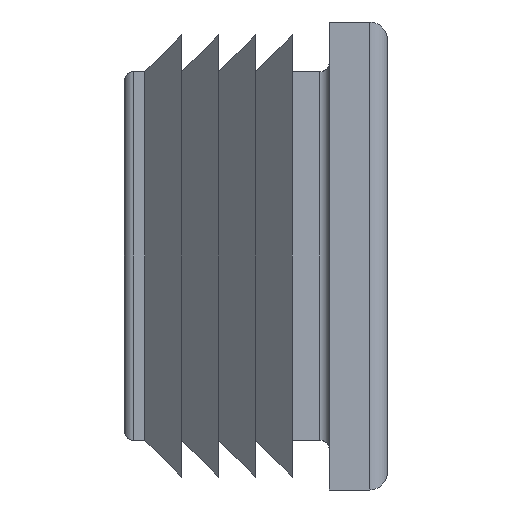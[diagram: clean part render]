
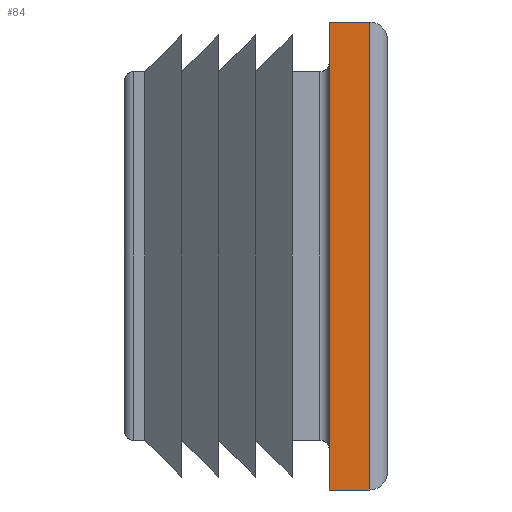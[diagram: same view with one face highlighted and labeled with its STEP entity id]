
A CAD part, front view. The second image highlights one B-rep face of the part: STEP entity #84.
In plain terms, the highlighted planar face has unit normal (0, -1, 0).
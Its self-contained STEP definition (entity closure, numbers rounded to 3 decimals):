
#84=ADVANCED_FACE('',(#168),#655,.T.);
#168=FACE_OUTER_BOUND('',#252,.F.);
#252=EDGE_LOOP('',(#443,#444,#445,#446));
#443=ORIENTED_EDGE('',*,*,#744,.F.);
#444=ORIENTED_EDGE('',*,*,#817,.F.);
#445=ORIENTED_EDGE('',*,*,#785,.T.);
#446=ORIENTED_EDGE('',*,*,#816,.T.);
#655=PLANE('',#1292);
#744=EDGE_CURVE('',#1226,#1225,#902,.T.);
#785=EDGE_CURVE('',#1206,#1205,#938,.T.);
#816=EDGE_CURVE('',#1205,#1225,#965,.T.);
#817=EDGE_CURVE('',#1206,#1226,#966,.T.);
#902=LINE('',#1830,#1046);
#938=LINE('',#1926,#1082);
#965=LINE('',#2001,#1109);
#966=LINE('',#2002,#1110);
#1046=VECTOR('',#1361,2.175);
#1082=VECTOR('',#1397,2.175);
#1109=VECTOR('',#1424,25.4);
#1110=VECTOR('',#1425,25.4);
#1205=VERTEX_POINT('',#1691);
#1206=VERTEX_POINT('',#1692);
#1225=VERTEX_POINT('',#1711);
#1226=VERTEX_POINT('',#1712);
#1292=AXIS2_PLACEMENT_3D('',#2160,#1560,#1561);
#1361=DIRECTION('',(1.,0.,0.));
#1397=DIRECTION('',(1.,0.,0.));
#1424=DIRECTION('',(0.,0.,-1.));
#1425=DIRECTION('',(0.,0.,-1.));
#1560=DIRECTION('',(0.,-1.,0.));
#1561=DIRECTION('',(1.,0.,0.));
#1691=CARTESIAN_POINT('',(-1.,-12.7,25.4));
#1692=CARTESIAN_POINT('',(-3.175,-12.7,25.4));
#1711=CARTESIAN_POINT('',(-1.,-12.7,0.));
#1712=CARTESIAN_POINT('',(-3.175,-12.7,0.));
#1830=CARTESIAN_POINT('',(-3.175,-12.7,0.));
#1926=CARTESIAN_POINT('',(-3.175,-12.7,25.4));
#2001=CARTESIAN_POINT('',(-1.,-12.7,25.4));
#2002=CARTESIAN_POINT('',(-3.175,-12.7,25.4));
#2160=CARTESIAN_POINT('',(-3.429,-12.7,-0.254));
